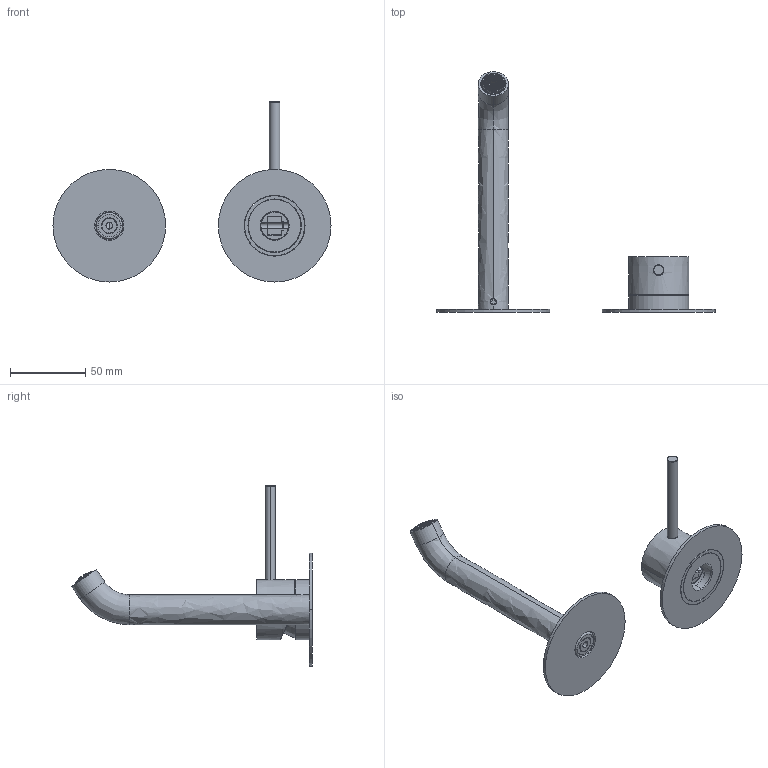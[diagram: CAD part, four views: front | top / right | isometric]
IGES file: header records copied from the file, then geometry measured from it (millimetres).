
Start section:  PTC IGES file: 69537b.igs
Global section: file name: 69537b.igs; native system: Creo Parametric by PTC Inc.; preprocessor: 2022014; author: carloff; organization: Unknown; date: 20241021.165352; units: millimetre
Bounding box: 185 x 160.19 x 119.9 mm (x, y, z)
Surface area: 67076.2 mm2 (no closed solid volume)
Topology: 0 solids, 0 shells, 2967 faces, 17558 edges, 17544 vertices
Faces by surface type: bspline 2056, revolution 908, extrusion 3
